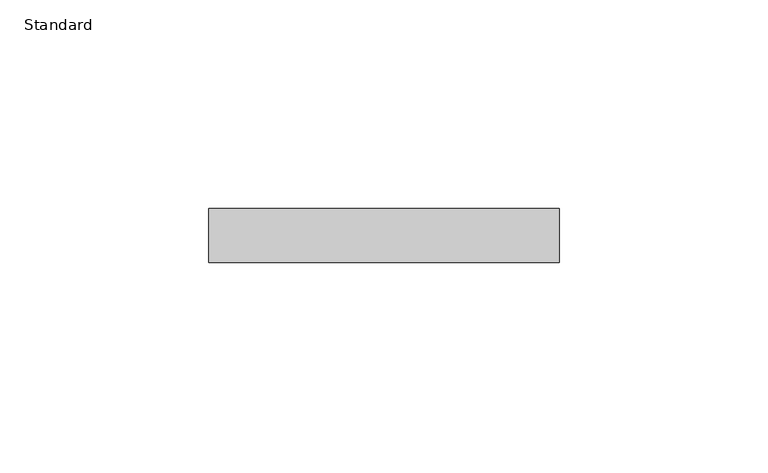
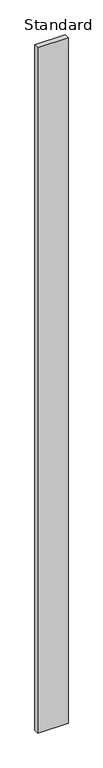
"""IFC4 building model written with IfcOpenShell, lengths in millimetres: furniture geometry, X_Partition-Compact Laminate-Duracube-Rectangular : Standard."""

from ifc_helpers import new_model, si_unit, origin, origin_with_axes, place, context, project, spatial, polyline, outline, extrude, source, transform, mapped, element, save


def standard_426d7a24(model_context):
    return source(origin(), model_context, "Body", "SweptSolid", [
        extrude(outline(polyline([(86.7003264, 0.0), (86.7003264, -13.0), (2.7003264, -13.0), (2.7003264, 0.0), (86.7003264, 0.0)])), origin_with_axes(), (0.0, 0.0, 1.0), 1999.0),
    ])


if __name__ == "__main__":
    model = new_model("IFC4")
    model_context = context("Model", 3, world=origin())
    ifc_project = project(units=[si_unit("LENGTHUNIT", "METRE", prefix="MILLI")], contexts=[model_context])
    site = spatial("IfcSite", under=ifc_project)
    building = spatial("IfcBuilding", under=site)
    placement = place(None, origin())
    standard_shape = standard_426d7a24(model_context)
    element("IfcFurniture", 1, ObjectType="X_Partition-Compact Laminate-Duracube-Rectangular : Standard", at=placement, inside=building, context=model_context, shape_type="MappedRepresentation", body=[
        mapped(standard_shape, transform((0.0, 0.0, 0.0), x_axis=(1.0, 0.0, 0.0), y_axis=(0.0, 1.0, 0.0), z_axis=(0.0, 0.0, 1.0))),
    ])
    save(model, "model.ifc")
